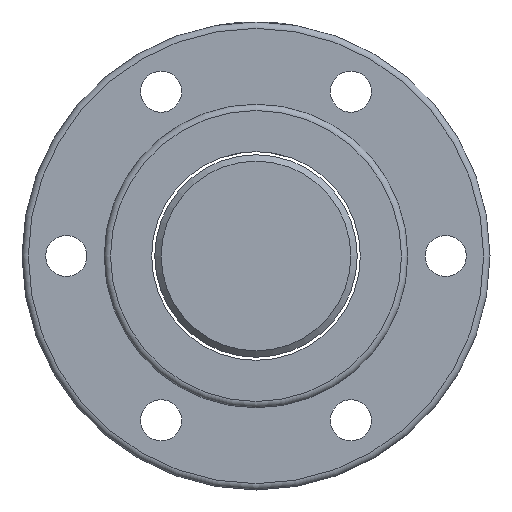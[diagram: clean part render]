
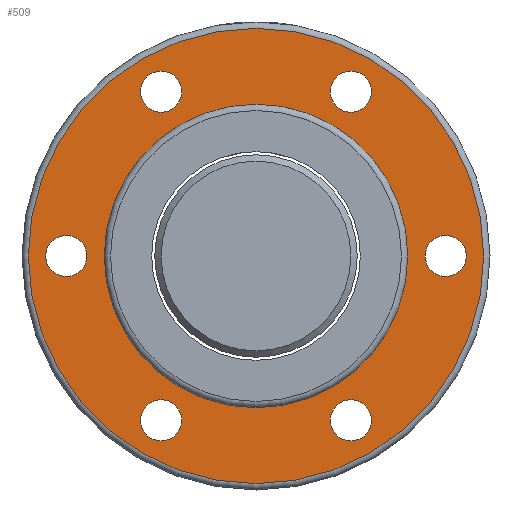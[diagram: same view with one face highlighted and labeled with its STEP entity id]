
A CAD part, left-side view. The second image highlights one B-rep face of the part: STEP entity #509.
In plain terms, the highlighted planar face has unit normal (-1, 0, 0).
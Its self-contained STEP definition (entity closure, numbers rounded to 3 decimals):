
#31=PLANE('',#603);
#100=ORIENTED_EDGE('',*,*,#185,.T.);
#101=ORIENTED_EDGE('',*,*,#184,.F.);
#102=ORIENTED_EDGE('',*,*,#181,.T.);
#103=ORIENTED_EDGE('',*,*,#177,.T.);
#104=ORIENTED_EDGE('',*,*,#173,.T.);
#105=ORIENTED_EDGE('',*,*,#169,.T.);
#106=ORIENTED_EDGE('',*,*,#165,.T.);
#107=ORIENTED_EDGE('',*,*,#161,.T.);
#161=EDGE_CURVE('',#214,#214,#258,.T.);
#165=EDGE_CURVE('',#218,#218,#262,.T.);
#169=EDGE_CURVE('',#222,#222,#266,.T.);
#173=EDGE_CURVE('',#226,#226,#270,.T.);
#177=EDGE_CURVE('',#230,#230,#274,.T.);
#181=EDGE_CURVE('',#234,#234,#278,.T.);
#184=EDGE_CURVE('',#237,#237,#281,.T.);
#185=EDGE_CURVE('',#238,#238,#282,.T.);
#214=VERTEX_POINT('',#839);
#218=VERTEX_POINT('',#850);
#222=VERTEX_POINT('',#861);
#226=VERTEX_POINT('',#872);
#230=VERTEX_POINT('',#883);
#234=VERTEX_POINT('',#894);
#237=VERTEX_POINT('',#903);
#238=VERTEX_POINT('',#906);
#258=CIRCLE('',#561,3.25);
#262=CIRCLE('',#568,3.25);
#266=CIRCLE('',#575,3.25);
#270=CIRCLE('',#582,3.25);
#274=CIRCLE('',#589,3.25);
#278=CIRCLE('',#596,3.25);
#281=CIRCLE('',#602,36.);
#282=CIRCLE('',#604,24.);
#345=EDGE_LOOP('',(#100));
#346=EDGE_LOOP('',(#101));
#347=EDGE_LOOP('',(#102));
#348=EDGE_LOOP('',(#103));
#349=EDGE_LOOP('',(#104));
#350=EDGE_LOOP('',(#105));
#351=EDGE_LOOP('',(#106));
#352=EDGE_LOOP('',(#107));
#432=FACE_BOUND('',#345,.T.);
#433=FACE_BOUND('',#346,.T.);
#434=FACE_BOUND('',#347,.T.);
#435=FACE_BOUND('',#348,.T.);
#436=FACE_BOUND('',#349,.T.);
#437=FACE_BOUND('',#350,.T.);
#438=FACE_BOUND('',#351,.T.);
#439=FACE_BOUND('',#352,.T.);
#509=ADVANCED_FACE('',(#432,#433,#434,#435,#436,#437,#438,#439),#31,.F.);
#561=AXIS2_PLACEMENT_3D('',#838,#656,#657);
#568=AXIS2_PLACEMENT_3D('',#849,#670,#671);
#575=AXIS2_PLACEMENT_3D('',#860,#684,#685);
#582=AXIS2_PLACEMENT_3D('',#871,#698,#699);
#589=AXIS2_PLACEMENT_3D('',#882,#712,#713);
#596=AXIS2_PLACEMENT_3D('',#893,#726,#727);
#602=AXIS2_PLACEMENT_3D('',#902,#738,#739);
#603=AXIS2_PLACEMENT_3D('',#904,#740,#741);
#604=AXIS2_PLACEMENT_3D('',#905,#742,#743);
#656=DIRECTION('',(1.,0.,0.));
#657=DIRECTION('',(0.,0.,-1.));
#670=DIRECTION('',(1.,0.,0.));
#671=DIRECTION('',(0.,0.,-1.));
#684=DIRECTION('',(1.,0.,0.));
#685=DIRECTION('',(0.,0.,-1.));
#698=DIRECTION('',(1.,0.,0.));
#699=DIRECTION('',(0.,0.,-1.));
#712=DIRECTION('',(1.,0.,0.));
#713=DIRECTION('',(0.,0.,-1.));
#726=DIRECTION('',(1.,0.,0.));
#727=DIRECTION('',(0.,0.,-1.));
#738=DIRECTION('',(1.,0.,0.));
#739=DIRECTION('',(0.,0.,-1.));
#740=DIRECTION('',(1.,0.,0.));
#741=DIRECTION('',(0.,0.,-1.));
#742=DIRECTION('',(1.,0.,0.));
#743=DIRECTION('',(0.,0.,-1.));
#838=CARTESIAN_POINT('',(-27.,15.,-25.981));
#839=CARTESIAN_POINT('',(-27.,15.,-29.231));
#849=CARTESIAN_POINT('',(-27.,-15.,-25.981));
#850=CARTESIAN_POINT('',(-27.,-15.,-29.231));
#860=CARTESIAN_POINT('',(-27.,-30.,0.));
#861=CARTESIAN_POINT('',(-27.,-30.,-3.25));
#871=CARTESIAN_POINT('',(-27.,-15.,25.981));
#872=CARTESIAN_POINT('',(-27.,-15.,22.731));
#882=CARTESIAN_POINT('',(-27.,15.,25.981));
#883=CARTESIAN_POINT('',(-27.,15.,22.731));
#893=CARTESIAN_POINT('',(-27.,30.,0.));
#894=CARTESIAN_POINT('',(-27.,30.,-3.25));
#902=CARTESIAN_POINT('',(-27.,0.,0.));
#903=CARTESIAN_POINT('',(-27.,0.,-36.));
#904=CARTESIAN_POINT('',(-27.,30.5,0.));
#905=CARTESIAN_POINT('',(-27.,0.,0.));
#906=CARTESIAN_POINT('',(-27.,0.,-24.));
